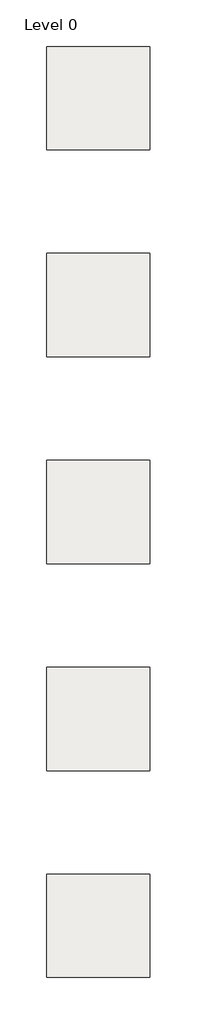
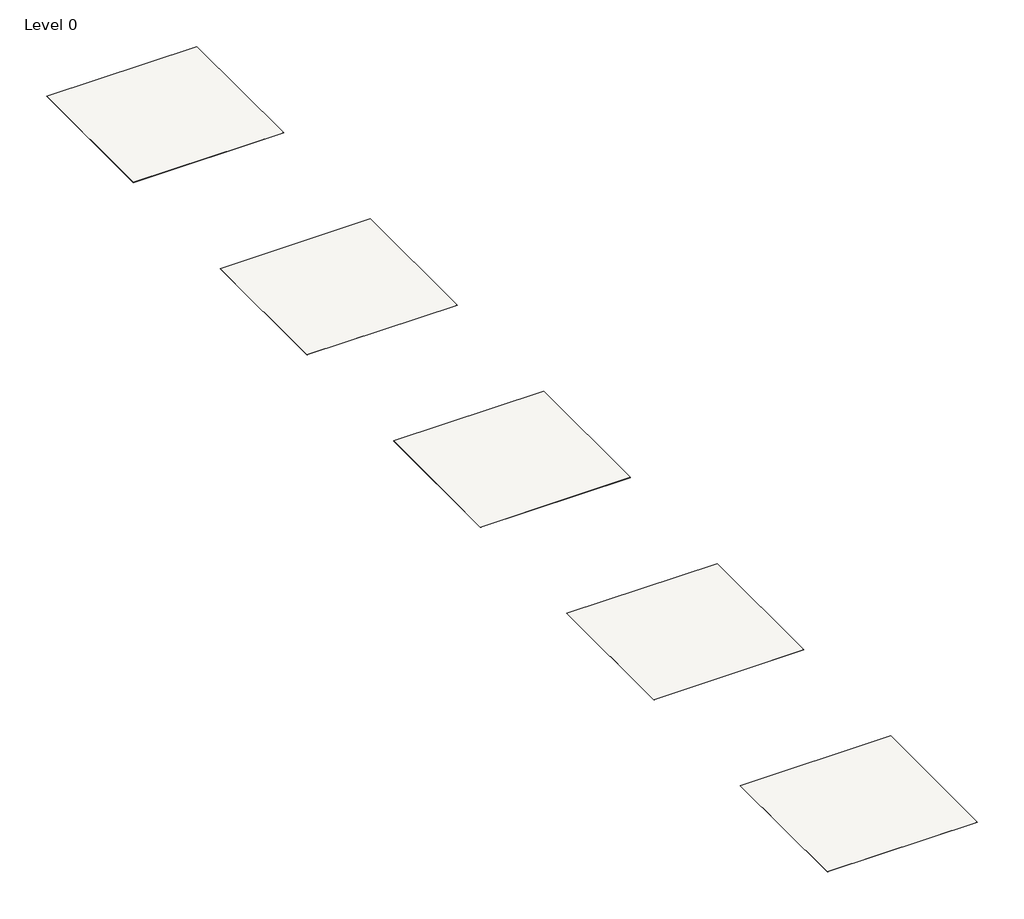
# One storey: 5 coverings.
"""IFC4 building model written with IfcOpenShell, lengths in millimetres."""

from ifc_helpers import new_model, si_unit, origin, origin_with_axes, place, context, project, spatial, polyline, outline, extrude, element, save

model = new_model("IFC4")

# Units and contexts
model_context = context("Model", 3, world=origin())
ifc_project = project(units=[si_unit("LENGTHUNIT", "METRE", prefix="MILLI")], contexts=[model_context])

# Site, building, storey
site = spatial("IfcSite", under=ifc_project)
building = spatial("IfcBuilding", under=site)
storey = spatial("IfcBuildingStorey", under=building, Name="Level 0", Elevation=0.0)

# Coverings
placement = place(None, origin())
element("IfcCovering", 1, ObjectType="NBS_Zentia_ModularSuspendedCeilingSystems_DecoMeshE15-NexusLayouts_NexusARRAY", at=placement, inside=storey, context=model_context, shape_type="SweptSolid", body=[
    extrude(outline(polyline([(-976.0, -4024.0), (-976.0, -1524.0), (1524.0, -1524.0), (1524.0, -4024.0), (-976.0, -4024.0)])), origin_with_axes(), (0.0, 0.0, 1.0), 2.0),
])
element("IfcCovering", 2, ObjectType="NBS_Zentia_ModularSuspendedCeilingSystems_DecoMeshE15-NexusLayouts_NexusBERG", at=placement, inside=storey, context=model_context, shape_type="SweptSolid", body=[
    extrude(outline(polyline([(-976.0, -9024.0), (-976.0, -6524.0), (1524.0, -6524.0), (1524.0, -9024.0), (-976.0, -9024.0)])), origin_with_axes(), (0.0, 0.0, 1.0), 2.0),
])
element("IfcCovering", 3, ObjectType="NBS_Zentia_ModularSuspendedCeilingSystems_DecoMeshE15-NexusLayouts_NexusEXCLAIM", at=placement, inside=storey, context=model_context, shape_type="SweptSolid", body=[
    extrude(outline(polyline([(-976.0, -14024.0), (-976.0, -11524.0), (1524.0, -11524.0), (1524.0, -14024.0), (-976.0, -14024.0)])), origin_with_axes(), (0.0, 0.0, 1.0), 2.0),
])
element("IfcCovering", 4, ObjectType="NBS_Zentia_ModularSuspendedCeilingSystems_DecoMeshE15-NexusLayouts_NexusPIXAL", at=placement, inside=storey, context=model_context, shape_type="SweptSolid", body=[
    extrude(outline(polyline([(-976.0, -19024.0), (-976.0, -16524.0), (1524.0, -16524.0), (1524.0, -19024.0), (-976.0, -19024.0)])), origin_with_axes(), (0.0, 0.0, 1.0), 2.0),
])
element("IfcCovering", 5, ObjectType="NBS_Zentia_ModularSuspendedCeilingSystems_DecoMeshE15-NexusLayouts_NexusSTEP", at=placement, inside=storey, context=model_context, shape_type="SweptSolid", body=[
    extrude(outline(polyline([(-976.0, -24024.0), (-976.0, -21524.0), (1524.0, -21524.0), (1524.0, -24024.0), (-976.0, -24024.0)])), origin_with_axes(), (0.0, 0.0, 1.0), 2.0),
])

save(model, "model.ifc")
